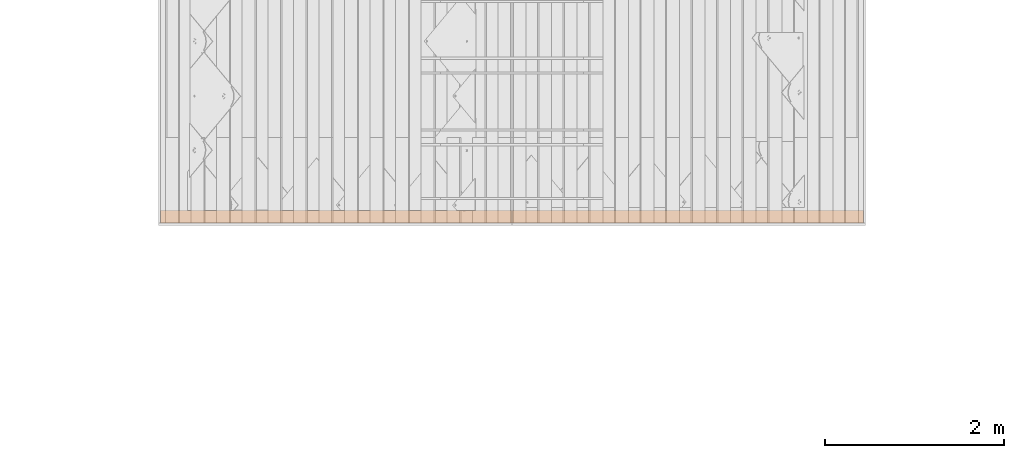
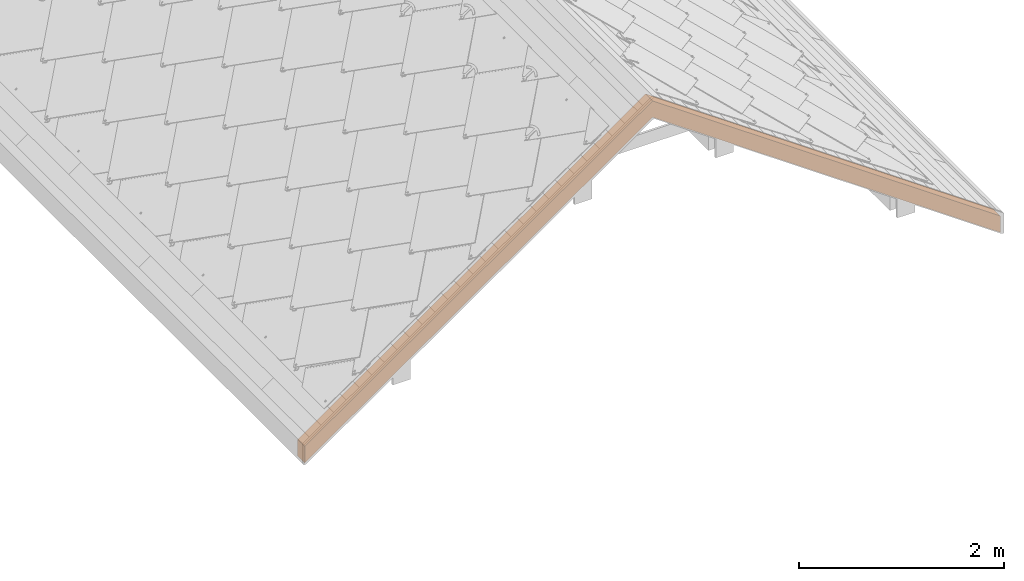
# One storey, part 125 of 133: 1 proxy, 1 element without a shape of its own.
"""IFC2X3 building model written with IfcOpenShell, lengths in millimetres."""

from ifc_helpers import new_model, entity, si_unit, converted_unit, derived_unit, direction, frame, origin, place, context, subcontext, project, spatial, faceted_brep, source, transform, mapped, material, type_object, type_shapes, element, aggregate, save


model = new_model("IFC2X3")

# Units and contexts
model_context = context("Model", 3, precision=0.01, world=origin(), true_north=direction((6.12303176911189e-17, 1.0)))
body_context = subcontext(model_context, "Body", "Model", "MODEL_VIEW")
ifc_project = project(units=[si_unit("LENGTHUNIT", "METRE", prefix="MILLI"), si_unit("AREAUNIT", "SQUARE_METRE"), si_unit("VOLUMEUNIT", "CUBIC_METRE"), converted_unit("PLANEANGLEUNIT", "DEGREE", entity("IfcRatioMeasure", 0.0174532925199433), si_unit("PLANEANGLEUNIT", "RADIAN"), dimensions=[0, 0, 0, 0, 0, 0, 0]), si_unit("MASSUNIT", "GRAM", prefix="KILO"), derived_unit("MASSDENSITYUNIT", [(si_unit("MASSUNIT", "GRAM", prefix="KILO"), 1), (si_unit("LENGTHUNIT", "METRE"), -3)]), si_unit("TIMEUNIT", "SECOND"), si_unit("FREQUENCYUNIT", "HERTZ"), si_unit("THERMODYNAMICTEMPERATUREUNIT", "DEGREE_CELSIUS"), derived_unit("THERMALTRANSMITTANCEUNIT", [(si_unit("MASSUNIT", "GRAM", prefix="KILO"), 1), (si_unit("THERMODYNAMICTEMPERATUREUNIT", "KELVIN"), -1), (si_unit("TIMEUNIT", "SECOND"), -3)]), derived_unit("VOLUMETRICFLOWRATEUNIT", [(si_unit("LENGTHUNIT", "METRE"), 3), (si_unit("TIMEUNIT", "SECOND"), -1)]), si_unit("ELECTRICCURRENTUNIT", "AMPERE"), si_unit("ELECTRICVOLTAGEUNIT", "VOLT"), si_unit("POWERUNIT", "WATT"), si_unit("FORCEUNIT", "NEWTON", prefix="KILO"), si_unit("ILLUMINANCEUNIT", "LUX"), si_unit("LUMINOUSFLUXUNIT", "LUMEN"), si_unit("LUMINOUSINTENSITYUNIT", "CANDELA"), derived_unit("USERDEFINED", [(si_unit("MASSUNIT", "GRAM", prefix="KILO"), -1), (si_unit("LENGTHUNIT", "METRE"), -2), (si_unit("TIMEUNIT", "SECOND"), 3), (si_unit("LUMINOUSFLUXUNIT", "LUMEN"), 1)]), derived_unit("LINEARVELOCITYUNIT", [(si_unit("LENGTHUNIT", "METRE"), 1), (si_unit("TIMEUNIT", "SECOND"), -1)]), si_unit("PRESSUREUNIT", "PASCAL"), derived_unit("USERDEFINED", [(si_unit("LENGTHUNIT", "METRE"), -2), (si_unit("MASSUNIT", "GRAM", prefix="KILO"), 1), (si_unit("TIMEUNIT", "SECOND"), -2)])], contexts=[model_context])

# Site, building, storey
site_placement = place(None, origin())
site = spatial("IfcSite", under=ifc_project, at=site_placement, Name="Default", CompositionType="ELEMENT")
building_placement = place(site_placement, origin())
building = spatial("IfcBuilding", under=site, at=building_placement, CompositionType="ELEMENT")
storey_placement = place(building_placement, origin())
storey = spatial("IfcBuildingStorey", under=building, at=storey_placement, Name="Level 1", CompositionType="ELEMENT", Elevation=0.0)

# Assembly, proxy
assembly_placement = place(storey_placement, origin())
assembly = element("IfcElementAssembly", 1, at=assembly_placement, inside=storey, Name="Structural Framing Assembly:Roof Construction Assembly", ObjectType="Structural Framing Assembly:Roof Construction Assembly", AssemblyPlace="NOTDEFINED", PredefinedType="USERDEFINED")
ifc_material = material(Name="Wood - Generic - Wood For Showcase")
building_element_proxy_type = type_object("IfcBuildingElementProxyType", Name="Structural Framing 1", PredefinedType="NOTDEFINED", material=ifc_material)
shared_shape = source(origin(), body_context, "Body", "Brep", [
    faceted_brep([(3925.7904223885, 140.0, 2944.19198139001), (7851.58084477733, 140.0, 195.323934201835), (7851.58084477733, 140.0, 0.0), (6871.58084477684, 140.0, 686.203387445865), (6871.58084477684, 140.0, 800.20753821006), (6708.76604410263, 140.0, 800.207538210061), (4823.70073405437, 140.0, 2120.14447832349), (4823.70073405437, 140.0, 2234.14862908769), (4660.88593338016, 140.0, 2234.14862908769), (3925.7904223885, 140.0, 2748.86804718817), (3190.69491139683, 140.0, 2234.14862908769), (3027.8801107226, 140.0, 2234.14862908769), (3027.8801107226, 140.0, 2120.14447832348), (1142.81480067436, 140.0, 800.20753821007), (980.0, 140.0, 800.207538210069), (980.0, 140.0, 686.203387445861), (0.0, 140.0, 0.0), (0.0, 140.0, 195.323934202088), (3925.7904223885, 0.0, 2944.19198139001), (0.0, 0.0, 195.323934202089), (0.0, 0.0, 0.0), (3925.7904223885, 0.0, 2748.86804718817), (7851.58084477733, 0.0, 0.0), (7851.58084477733, 0.0, 195.323934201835), (4660.88593338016, 120.955607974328, 2234.14862908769), (4823.70073405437, 120.955607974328, 2120.14447832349), (6708.76604410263, 120.955607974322, 800.207538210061), (6871.58084477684, 120.955607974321, 686.203387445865), (980.0, 120.95560797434, 686.20338744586), (1142.81480067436, 120.95560797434, 800.20753821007), (3027.88011072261, 120.955607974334, 2120.14447832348), (3190.69491139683, 120.955607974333, 2234.14862908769), (6871.58084477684, 120.955607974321, 800.20753821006), (980.0, 120.955607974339, 800.20753821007), (3027.8801107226, 120.955607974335, 2234.14862908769), (4823.70073405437, 120.955607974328, 2234.14862908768)], [[[0, 1, 2, 3, 4, 5, 6, 7, 8, 9, 10, 11, 12, 13, 14, 15, 16, 17]], [[18, 19, 20, 21, 22, 23]], [[1, 0, 18, 23]], [[2, 1, 23, 22]], [[22, 21, 9, 8, 24, 25, 6, 5, 26, 27, 3, 2]], [[21, 20, 16, 15, 28, 29, 13, 12, 30, 31, 10, 9]], [[17, 16, 20, 19]], [[0, 17, 19, 18]], [[32, 27, 26]], [[29, 33, 14, 13]], [[33, 28, 15, 14]], [[27, 32, 4, 3]], [[32, 26, 5, 4]], [[31, 34, 11, 10]], [[34, 30, 12, 11]], [[25, 35, 7, 6]], [[35, 24, 8, 7]], [[35, 25, 24]], [[34, 31, 30]], [[33, 29, 28]]]),
])
type_shapes(building_element_proxy_type, [shared_shape])
proxy_placement = place(assembly_placement, frame((-2719.01151512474, -6702.90480582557, -144.191981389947)))
proxy = element("IfcBuildingElementProxy", 2, at=proxy_placement, type_object=building_element_proxy_type, material=ifc_material, Name="Structural Framing 14:Structural Framing 1", ObjectType="Structural Framing 14:Structural Framing 1", context=body_context, shape_type="MappedRepresentation", body=[
    mapped(shared_shape, transform((0.0, 0.0, 0.0), scale=1.0)),
])
aggregate(assembly, [proxy])

save(model, "model.ifc")
